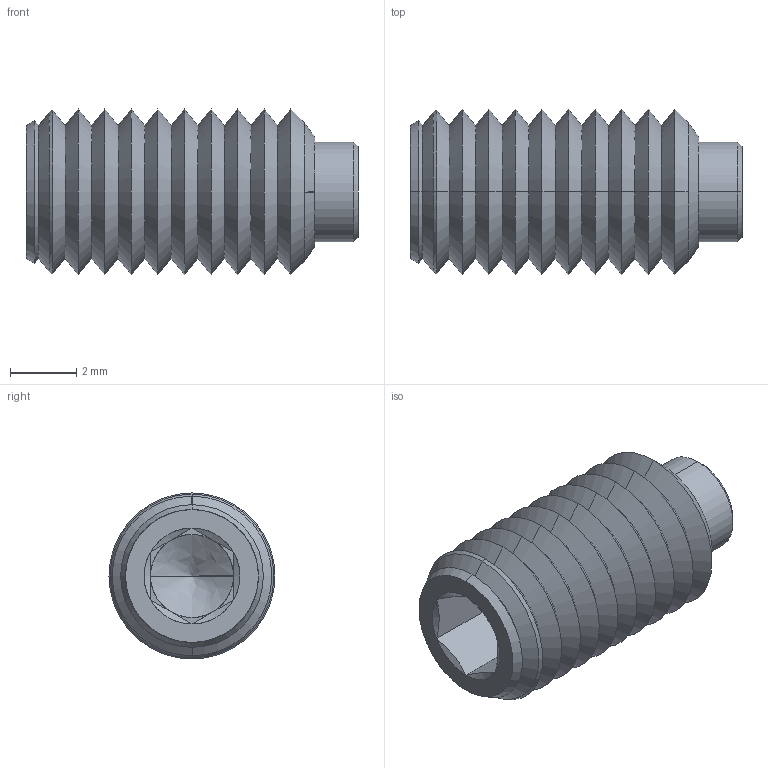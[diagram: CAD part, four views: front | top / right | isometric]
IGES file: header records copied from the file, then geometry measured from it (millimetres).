
Start section: SolidWorks IGES file using analytic representation for surfaces
Global section: file name: C:\Users\IanO\Desktop\P0120_v2_230406\P0120_v2_20230506_IGES\P0120.050-010.igs; native system: SolidWorks 2019; preprocessor: SolidWorks 2019; author: IanO; date: 230406.142301; units: millimetre
Bounding box: 10 x 5 x 5 mm (x, y, z)
Surface area: 285.4 mm2 (no closed solid volume)
Topology: 0 solids, 0 shells, 79 faces, 562 edges, 560 vertices
Faces by surface type: revolution 62, bspline 17
